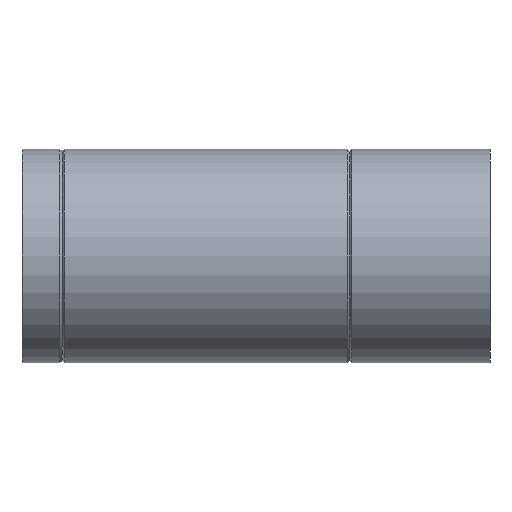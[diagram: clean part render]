
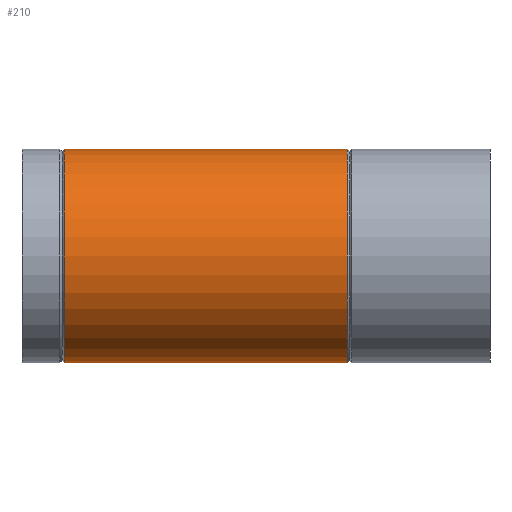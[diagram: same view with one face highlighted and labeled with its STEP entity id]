
A CAD part, left-side view. The second image highlights one B-rep face of the part: STEP entity #210.
In plain terms, the highlighted cylindrical face has radius 80 mm (diameter 160 mm), a full revolution.
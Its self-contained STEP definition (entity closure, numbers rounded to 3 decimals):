
#15=ELLIPSE($,#234,111.685,80.);
#16=ELLIPSE($,#235,114.648,80.);
#19=CYLINDRICAL_SURFACE($,#232,80.);
#28=FACE_BOUND($,#65,.T.);
#29=FACE_BOUND($,#66,.T.);
#50=FACE_OUTER_BOUND($,#64,.T.);
#64=EDGE_LOOP($,(#151));
#65=EDGE_LOOP($,(#152,#153));
#66=EDGE_LOOP($,(#154));
#96=CIRCLE($,#231,80.);
#97=CIRCLE($,#233,80.);
#111=VERTEX_POINT($,#341);
#112=VERTEX_POINT($,#344);
#113=VERTEX_POINT($,#346);
#114=VERTEX_POINT($,#347);
#130=EDGE_CURVE($,#111,#111,#96,.T.);
#131=EDGE_CURVE($,#112,#112,#97,.T.);
#132=EDGE_CURVE($,#113,#114,#15,.T.);
#133=EDGE_CURVE($,#114,#113,#16,.T.);
#151=ORIENTED_EDGE($,*,*,#131,.T.);
#152=ORIENTED_EDGE($,*,*,#132,.T.);
#153=ORIENTED_EDGE($,*,*,#133,.T.);
#154=ORIENTED_EDGE($,*,*,#130,.T.);
#210=ADVANCED_FACE($,(#50,#28,#29),#19,.T.);
#231=AXIS2_PLACEMENT_3D($,#342,#272,#273);
#232=AXIS2_PLACEMENT_3D($,#343,#274,#275);
#233=AXIS2_PLACEMENT_3D($,#345,#276,#277);
#234=AXIS2_PLACEMENT_3D($,#348,#278,#279);
#235=AXIS2_PLACEMENT_3D($,#349,#280,#281);
#272=DIRECTION('center_axis',(0.,-1.,0.));
#273=DIRECTION('ref_axis',(1.,0.,0.));
#274=DIRECTION('center_axis',(0.,1.,0.));
#275=DIRECTION('ref_axis',(1.,0.,0.));
#276=DIRECTION('center_axis',(0.,1.,0.));
#277=DIRECTION('ref_axis',(1.,0.,0.));
#278=DIRECTION('center_axis',(-0.698,-0.716,0.));
#279=DIRECTION('ref_axis',(0.716,-0.698,0.));
#280=DIRECTION('center_axis',(-0.716,0.698,0.));
#281=DIRECTION('ref_axis',(-0.698,-0.716,0.));
#341=CARTESIAN_POINT('',(80.,318.4,0.));
#342=CARTESIAN_POINT('Origin',(0.,318.4,0.));
#343=CARTESIAN_POINT('Origin',(0.,0.,0.));
#344=CARTESIAN_POINT('',(-80.,106.6,0.));
#345=CARTESIAN_POINT('Origin',(0.,106.6,0.));
#346=CARTESIAN_POINT('',(0.,210.,-80.));
#347=CARTESIAN_POINT('',(0.,210.,80.));
#348=CARTESIAN_POINT('Origin',(0.,210.,0.));
#349=CARTESIAN_POINT('Origin',(0.,210.,0.));
